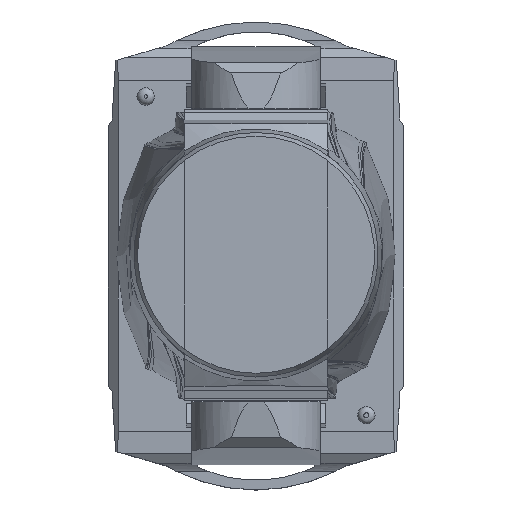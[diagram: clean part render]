
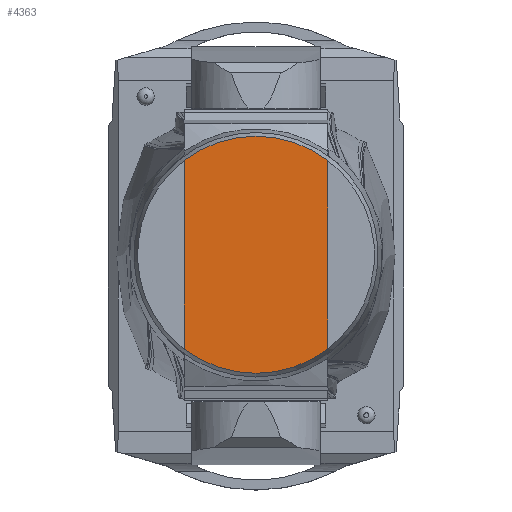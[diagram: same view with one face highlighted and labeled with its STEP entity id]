
A CAD part, top view. The second image highlights one B-rep face of the part: STEP entity #4363.
In plain terms, the highlighted planar face has unit normal (0, 0, 1).
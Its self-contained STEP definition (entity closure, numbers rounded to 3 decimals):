
#188=CIRCLE('',#4691,115.984);
#190=CIRCLE('',#4693,115.984);
#299=PLANE('',#4701);
#812=LINE('',#9896,#1082);
#813=LINE('',#9898,#1083);
#1082=VECTOR('',#5570,1000.);
#1083=VECTOR('',#5573,1000.);
#2377=ORIENTED_EDGE('',*,*,#3029,.T.);
#2378=ORIENTED_EDGE('',*,*,#3033,.F.);
#2379=ORIENTED_EDGE('',*,*,#3027,.T.);
#2380=ORIENTED_EDGE('',*,*,#3032,.T.);
#3027=EDGE_CURVE('',#3471,#3470,#188,.T.);
#3029=EDGE_CURVE('',#3469,#3472,#190,.T.);
#3032=EDGE_CURVE('',#3470,#3469,#812,.T.);
#3033=EDGE_CURVE('',#3471,#3472,#813,.T.);
#3469=VERTEX_POINT('',#9882);
#3470=VERTEX_POINT('',#9883);
#3471=VERTEX_POINT('',#9885);
#3472=VERTEX_POINT('',#9887);
#3806=EDGE_LOOP('',(#2377,#2378,#2379,#2380));
#4076=FACE_BOUND('',#3806,.T.);
#4363=ADVANCED_FACE('',(#4076),#299,.F.);
#4691=AXIS2_PLACEMENT_3D('',#9884,#5550,#5551);
#4693=AXIS2_PLACEMENT_3D('',#9888,#5554,#5555);
#4701=AXIS2_PLACEMENT_3D('',#9897,#5571,#5572);
#5550=DIRECTION('',(0.,0.,1.));
#5551=DIRECTION('',(1.,0.,0.));
#5554=DIRECTION('',(0.,0.,1.));
#5555=DIRECTION('',(1.,0.,0.));
#5570=DIRECTION('',(0.,-1.,0.));
#5571=DIRECTION('',(0.,0.,-1.));
#5572=DIRECTION('',(0.,1.,0.));
#5573=DIRECTION('',(0.,-1.,0.));
#9882=CARTESIAN_POINT('',(-70.,-92.479,423.101));
#9883=CARTESIAN_POINT('',(-70.,92.479,423.101));
#9884=CARTESIAN_POINT('',(0.,0.,423.101));
#9885=CARTESIAN_POINT('',(70.,92.479,423.101));
#9887=CARTESIAN_POINT('',(70.,-92.479,423.101));
#9888=CARTESIAN_POINT('',(0.,0.,423.101));
#9896=CARTESIAN_POINT('',(-70.,115.984,423.101));
#9897=CARTESIAN_POINT('',(70.,115.984,423.101));
#9898=CARTESIAN_POINT('',(70.,115.984,423.101));
